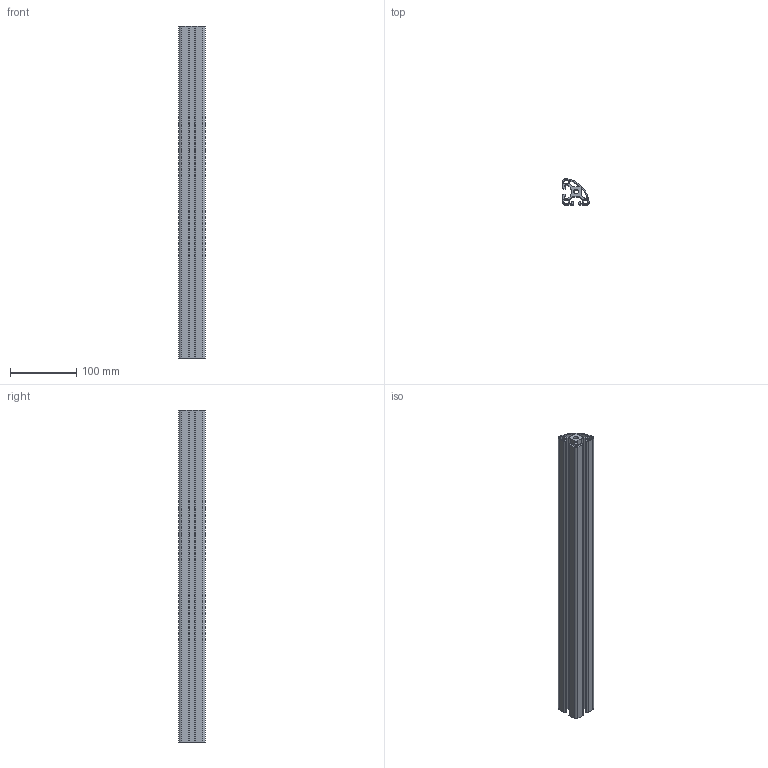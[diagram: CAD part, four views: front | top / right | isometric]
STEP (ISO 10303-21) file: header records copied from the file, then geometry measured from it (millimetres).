
FILE_DESCRIPTION (( 'STEP AP203' ), '1' );
FILE_NAME ('M ATP I8 40LR90.STEP', '2012-06-04T09:26:17', ( 'alle' ), ( 'Hewlett-Packard Company' ), 'SwSTEP 2.0', 'SolidWorks 2011', '' );
FILE_SCHEMA (( 'CONFIG_CONTROL_DESIGN' ));
Length unit declared in the file: millimetre
Products named in the file (1): M ATP I8 40LR90
Bounding box: 39.77 x 39.77 x 500 mm (x, y, z)
Volume: 282448.5 mm3; surface area: 203348.1 mm2
Topology: 1 solids, 1 shells, 102 faces, 300 edges, 200 vertices
Faces by surface type: cylinder 58, plane 44
Entity records: 3541 total; most frequent: DIRECTION 622, CARTESIAN_POINT 603, ORIENTED_EDGE 600, EDGE_CURVE 300, AXIS2_PLACEMENT_3D 219, VERTEX_POINT 200, VECTOR 184, LINE 184
